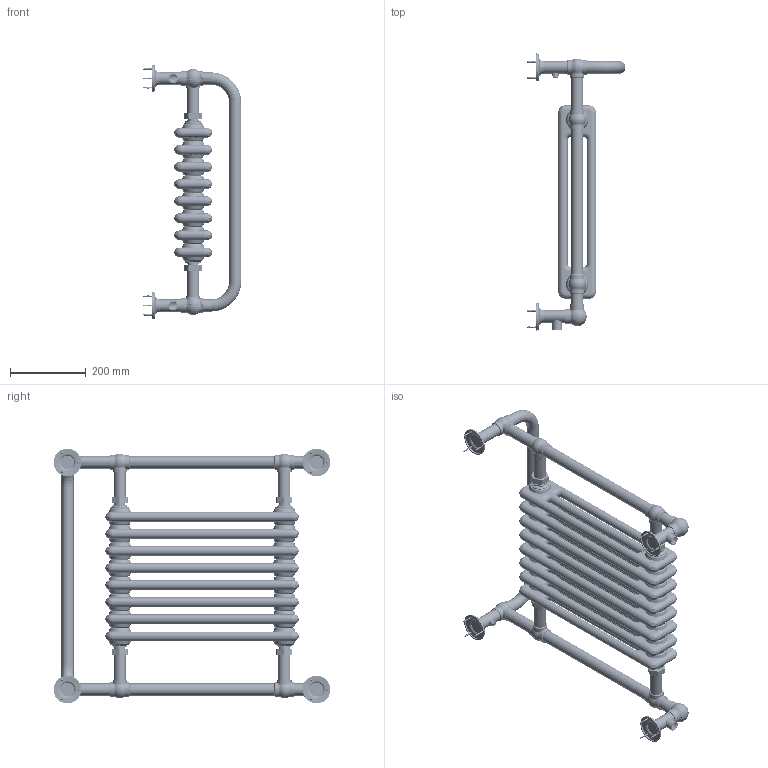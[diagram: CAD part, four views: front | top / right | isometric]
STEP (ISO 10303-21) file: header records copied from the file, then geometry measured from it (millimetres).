
FILE_DESCRIPTION(/* description */ (''),/* implementation_level */ '2;1');
FILE_NAME(/* name */ 'IE 730x675x235 不带安装盘.stp',/* time_stamp */ '2023-12-12T12:18:32+08:00',/* author */ (''),/* organization */ (''),/* preprocessor_version */ 'ST-DEVELOPER v18.101',/* originating_system */ 'SIEMENS PLM Software NX 2007',/* authorisation */ '');
FILE_SCHEMA (('AUTOMOTIVE_DESIGN { 1 0 10303 214 3 1 1 1 }'));
Length unit declared in the file: millimetre
Products named in the file (1): IE 730x675x235 不带安装盘_objects
Bounding box: 260.25 x 730 x 672 mm (x, y, z)
Volume: 2545949.6 mm3; surface area: 2472205.6 mm2
Topology: 32 solids, 39 shells, 1794 faces, 4616 edges, 2916 vertices
Faces by surface type: plane 512, bspline 412, cylinder 391, torus 260, cone 204, sphere 15
Full cylindrical faces by diameter (mm): 5.2 x12, 9 x12, 18 x2, 19 x28, 22 x24, 25 x26, 28 x4, 29 x13, 30 x4, 31.5 x2, 32 x17, 32.5 x6, 32.6 x4, 34.5 x4, 35.8 x6, 36.5 x2, 37.5 x4, 38 x16, 39.5 x5, 40 x18, 48 x5, 68 x4, 73 x4
Entity records: 145786 total; most frequent: CARTESIAN_POINT 108318, ORIENTED_EDGE 7708, DIRECTION 7052, EDGE_CURVE 3854, AXIS2_PLACEMENT_3D 3063, VERTEX_POINT 2631, EDGE_LOOP 2371, ADVANCED_FACE 1774
